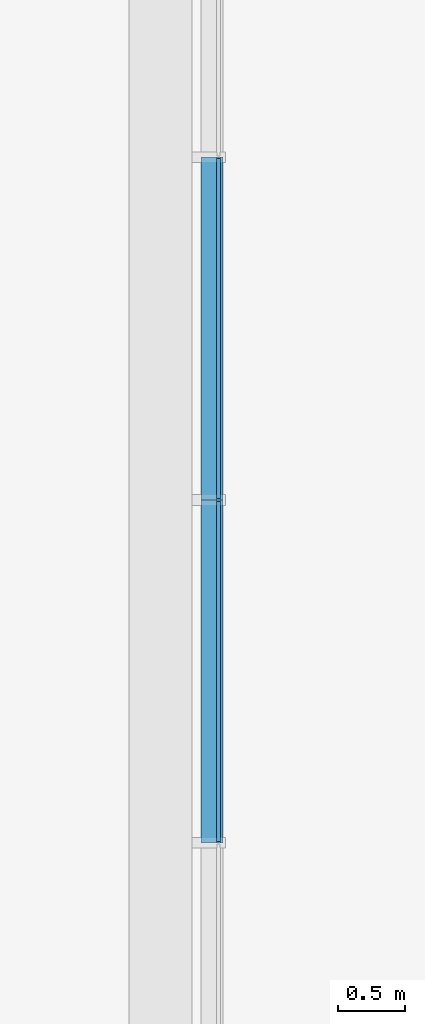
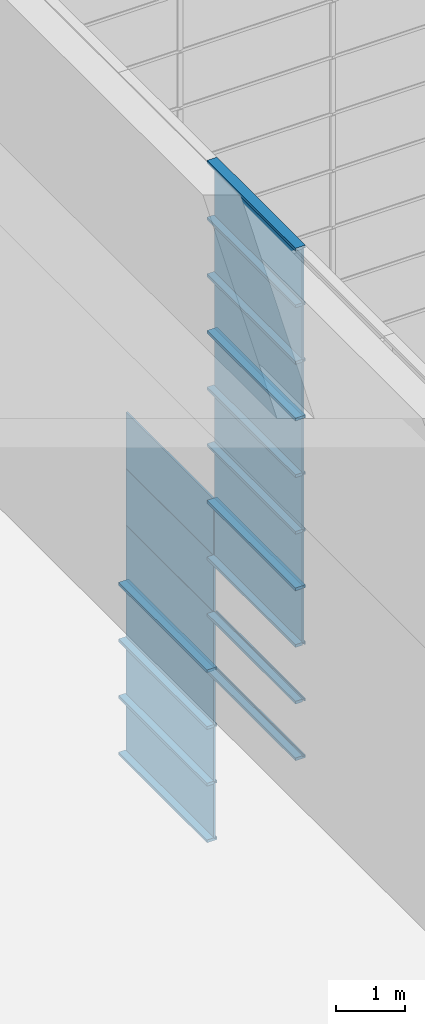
# One storey, part 26 of 105: 30 building element parts, 4 elements without a shape of their own.
"""IFC4 building model written with IfcOpenShell, lengths in millimetres."""

from ifc_helpers import new_model, entity, si_unit, converted_unit, derived_unit, direction, frame, origin_with_axes, place, context, subcontext, project, spatial, triangles, material, element, aggregate, save


model = new_model("IFC4")

# Units and contexts
model_context = context("Model", 3, precision=1e-05, world=origin_with_axes(), true_north=direction((0.0, 1.0)))
body_context = subcontext(model_context, "Body", "Model", "MODEL_VIEW")
ifc_project = project(units=[si_unit("LENGTHUNIT", "METRE", prefix="MILLI"), si_unit("AREAUNIT", "SQUARE_METRE"), si_unit("VOLUMEUNIT", "CUBIC_METRE"), converted_unit("PLANEANGLEUNIT", "DEGREE", entity("IfcLengthMeasure", 0.017453), si_unit("PLANEANGLEUNIT", "RADIAN"), dimensions=[0, 0, 0, 0, 0, 0, 0]), si_unit("SOLIDANGLEUNIT", "STERADIAN"), si_unit("MASSUNIT", "GRAM"), si_unit("TIMEUNIT", "SECOND"), si_unit("THERMODYNAMICTEMPERATUREUNIT", "DEGREE_CELSIUS"), si_unit("LUMINOUSINTENSITYUNIT", "LUMEN"), si_unit("POWERUNIT", "WATT"), derived_unit("THERMALTRANSMITTANCEUNIT", [(si_unit("POWERUNIT", "WATT"), 1), (si_unit("THERMODYNAMICTEMPERATUREUNIT", "KELVIN"), -1), (si_unit("AREAUNIT", "SQUARE_METRE"), -1)])], contexts=[model_context])

# Site, building, storey
site_placement = place(None, origin_with_axes())
site = spatial("IfcSite", under=ifc_project, at=site_placement, Name="Default Site", CompositionType="ELEMENT")
building_placement = place(site_placement, origin_with_axes())
building = spatial("IfcBuilding", under=site, at=building_placement, Name="Default Building", CompositionType="ELEMENT")
storey_placement = place(building_placement, origin_with_axes())
storey = spatial("IfcBuildingStorey", under=building, at=storey_placement, Name="OG - Story", CompositionType="ELEMENT", Elevation=0.0)

# Curtain wall, building element parts
curtain_wall_1_placement = place(storey_placement, origin_with_axes())
curtain_wall_1 = element("IfcCurtainWall", 1, at=curtain_wall_1_placement, inside=storey, Name="Fassade-006", PredefinedType="NOTDEFINED")
ifc_material_1 = material(Name="Normalglas")
building_element_part_1_placement = place(curtain_wall_1_placement, frame((51421.391327, -39309.262838, 0.0), z_axis=(0.0, 0.0, 1.0), x_axis=(1.0, 0.0, 0.0)))
building_element_part_1 = element("IfcBuildingElementPart", 2, at=building_element_part_1_placement, material=ifc_material_1, Name="Normalglas", PredefinedType="NOTDEFINED", context=body_context, shape_type="Tessellation", body=[
    triangles([(-14.999, 8950.0, 995.0), (-14.999, 6410.0, 995.0), (15.0, 6410.0, 995.0), (15.0, 8950.0, 995.0), (-14.999, 8950.0, 5.0), (-14.999, 6410.0, 5.0), (15.0, 6410.0, 5.0), (15.0, 8950.0, 5.0)], [[1, 2, 3], [1, 3, 4], [1, 5, 6], [1, 6, 2], [2, 6, 7], [2, 7, 3], [4, 3, 7], [4, 7, 8], [5, 1, 4], [5, 4, 8], [6, 5, 8], [6, 8, 7]], closed=False),
])
building_element_part_2_placement = place(curtain_wall_1_placement, frame((51421.391327, -39309.262838, 0.0), z_axis=(0.0, 0.0, 1.0), x_axis=(1.0, 0.0, 0.0)))
building_element_part_2 = element("IfcBuildingElementPart", 3, at=building_element_part_2_placement, material=ifc_material_1, Name="Normalglas", PredefinedType="NOTDEFINED", context=body_context, shape_type="Tessellation", body=[
    triangles([(-14.999, 8950.0, 1995.0), (-14.999, 6410.0, 1995.0), (15.0, 6410.0, 1995.0), (15.0, 8950.0, 1995.0), (-14.999, 8950.0, 1005.0), (-14.999, 6410.0, 1005.0), (15.0, 6410.0, 1005.0), (15.0, 8950.0, 1005.0)], [[1, 2, 3], [1, 3, 4], [1, 5, 6], [1, 6, 2], [2, 6, 7], [2, 7, 3], [4, 3, 7], [4, 7, 8], [5, 1, 4], [5, 4, 8], [6, 5, 8], [6, 8, 7]], closed=False),
])
building_element_part_3_placement = place(curtain_wall_1_placement, frame((51421.391327, -39309.262838, 0.0), z_axis=(0.0, 0.0, 1.0), x_axis=(1.0, 0.0, 0.0)))
building_element_part_3 = element("IfcBuildingElementPart", 4, at=building_element_part_3_placement, material=ifc_material_1, Name="Normalglas", PredefinedType="NOTDEFINED", context=body_context, shape_type="Tessellation", body=[
    triangles([(-14.999, 8950.0, 2995.0), (-14.999, 6410.0, 2995.0), (15.0, 6410.0, 2995.0), (15.0, 8950.0, 2995.0), (-14.999, 8950.0, 2005.0), (-14.999, 6410.0, 2005.0), (15.0, 6410.0, 2005.0), (15.0, 8950.0, 2005.0)], [[1, 2, 3], [1, 3, 4], [1, 5, 6], [1, 6, 2], [2, 6, 7], [2, 7, 3], [4, 3, 7], [4, 7, 8], [5, 1, 4], [5, 4, 8], [6, 5, 8], [6, 8, 7]], closed=False),
])
ifc_material_2 = material(Name="Blech")
building_element_part_4_placement = place(curtain_wall_1_placement, frame((51421.391327, -39309.262838, 0.0), z_axis=(0.0, 0.0, 1.0), x_axis=(1.0, 0.0, 0.0)))
building_element_part_4 = element("IfcBuildingElementPart", 5, at=building_element_part_4_placement, material=ifc_material_2, Name="Blech", PredefinedType="NOTDEFINED", context=body_context, shape_type="Tessellation", body=[
    triangles([(15.0, 8960.0, 5.0), (-14.999, 8960.0, 5.0), (-132.999, 8960.0, -24.999), (35.0, 8960.0, -24.999), (35.0, 8960.0, 25.0), (15.0, 8960.0, 25.0), (-132.999, 8960.0, 25.0), (-14.999, 8960.0, 25.0), (-14.999, 6400.0, 5.0), (15.0, 6400.0, 5.0), (15.0, 6400.0, 25.0), (35.0, 6400.0, 25.0), (35.0, 6400.0, -24.999), (-132.999, 6400.0, -24.999), (-132.999, 6400.0, 25.0), (-14.999, 6400.0, 25.0)], [[1, 2, 3], [1, 3, 4], [1, 4, 5], [1, 5, 6], [7, 3, 2], [7, 2, 8], [1, 2, 9], [1, 9, 10], [11, 6, 1], [11, 1, 10], [6, 11, 12], [6, 12, 5], [13, 4, 5], [13, 5, 12], [14, 3, 4], [14, 4, 13], [15, 7, 3], [15, 3, 14], [16, 8, 7], [16, 7, 15], [2, 8, 16], [2, 16, 9], [16, 15, 9], [9, 15, 14], [9, 14, 10], [10, 14, 13], [10, 13, 12], [10, 12, 11]], closed=False),
])
building_element_part_5_placement = place(curtain_wall_1_placement, frame((51421.391327, -39309.262838, 0.0), z_axis=(0.0, 0.0, 1.0), x_axis=(1.0, 0.0, 0.0)))
building_element_part_5 = element("IfcBuildingElementPart", 6, at=building_element_part_5_placement, material=ifc_material_2, Name="Blech", PredefinedType="NOTDEFINED", context=body_context, shape_type="Tessellation", body=[
    triangles([(15.0, 8960.0, 1025.0), (35.0, 8960.0, 1025.0), (15.0, 8960.0, 1005.0), (15.0, 8960.0, 995.0), (-14.999, 8960.0, 1005.0), (-132.999, 8960.0, 1025.0), (-14.999, 8960.0, 1025.0), (35.0, 8960.0, 975.0), (15.0, 8960.0, 975.0), (-14.999, 8960.0, 995.0), (-14.999, 8960.0, 975.0), (-132.999, 8960.0, 975.0), (-14.999, 6400.0, 995.0), (-14.999, 6400.0, 975.0), (-132.999, 6400.0, 975.0), (-132.999, 6400.0, 1025.0), (-14.999, 6400.0, 1025.0), (-14.999, 6400.0, 1005.0), (15.0, 6400.0, 1005.0), (15.0, 6400.0, 1025.0), (35.0, 6400.0, 1025.0), (35.0, 6400.0, 975.0), (15.0, 6400.0, 975.0), (15.0, 6400.0, 995.0)], [[1, 2, 3], [3, 2, 4], [3, 4, 5], [5, 4, 6], [5, 6, 7], [8, 9, 4], [8, 4, 2], [6, 4, 10], [6, 10, 11], [6, 11, 12], [11, 10, 13], [11, 13, 14], [11, 14, 15], [11, 15, 12], [6, 12, 15], [6, 15, 16], [7, 6, 16], [7, 16, 17], [7, 17, 18], [7, 18, 5], [5, 18, 19], [5, 19, 3], [1, 3, 19], [1, 19, 20], [20, 21, 2], [20, 2, 1], [8, 2, 21], [8, 21, 22], [23, 9, 8], [23, 8, 22], [4, 9, 23], [4, 23, 24], [10, 4, 24], [10, 24, 13], [17, 16, 18], [18, 16, 13], [18, 13, 19], [19, 13, 24], [19, 24, 21], [21, 24, 23], [21, 23, 22], [15, 14, 13], [15, 13, 16], [19, 21, 20]], closed=False),
])
building_element_part_6_placement = place(curtain_wall_1_placement, frame((51421.391327, -39309.262838, 0.0), z_axis=(0.0, 0.0, 1.0), x_axis=(1.0, 0.0, 0.0)))
building_element_part_6 = element("IfcBuildingElementPart", 7, at=building_element_part_6_placement, material=ifc_material_2, Name="Blech", PredefinedType="NOTDEFINED", context=body_context, shape_type="Tessellation", body=[
    triangles([(15.0, 8960.0, 2025.0), (35.0, 8960.0, 2025.0), (15.0, 8960.0, 2005.0), (15.0, 8960.0, 1995.0), (-14.999, 8960.0, 2005.0), (-132.999, 8960.0, 2025.0), (-14.999, 8960.0, 2025.0), (35.0, 8960.0, 1975.0), (15.0, 8960.0, 1975.0), (-14.999, 8960.0, 1995.0), (-14.999, 8960.0, 1975.0), (-132.999, 8960.0, 1975.0), (-14.999, 6400.0, 1995.0), (-14.999, 6400.0, 1975.0), (-132.999, 6400.0, 1975.0), (-132.999, 6400.0, 2025.0), (-14.999, 6400.0, 2025.0), (-14.999, 6400.0, 2005.0), (15.0, 6400.0, 2005.0), (15.0, 6400.0, 2025.0), (35.0, 6400.0, 2025.0), (35.0, 6400.0, 1975.0), (15.0, 6400.0, 1975.0), (15.0, 6400.0, 1995.0)], [[1, 2, 3], [3, 2, 4], [3, 4, 5], [5, 4, 6], [5, 6, 7], [8, 9, 4], [8, 4, 2], [6, 4, 10], [6, 10, 11], [6, 11, 12], [11, 10, 13], [11, 13, 14], [11, 14, 15], [11, 15, 12], [6, 12, 15], [6, 15, 16], [7, 6, 16], [7, 16, 17], [7, 17, 18], [7, 18, 5], [5, 18, 19], [5, 19, 3], [1, 3, 19], [1, 19, 20], [20, 21, 2], [20, 2, 1], [8, 2, 21], [8, 21, 22], [23, 9, 8], [23, 8, 22], [4, 9, 23], [4, 23, 24], [10, 4, 24], [10, 24, 13], [17, 16, 18], [18, 16, 13], [18, 13, 19], [19, 13, 24], [19, 24, 21], [21, 24, 23], [21, 23, 22], [15, 14, 13], [15, 13, 16], [19, 21, 20]], closed=False),
])
building_element_part_7_placement = place(curtain_wall_1_placement, frame((51421.391327, -39309.262838, 0.0), z_axis=(0.0, 0.0, 1.0), x_axis=(1.0, 0.0, 0.0)))
building_element_part_7 = element("IfcBuildingElementPart", 8, at=building_element_part_7_placement, material=ifc_material_2, Name="Blech", PredefinedType="NOTDEFINED", context=body_context, shape_type="Tessellation", body=[
    triangles([(15.0, 8960.0, 2995.0), (-14.999, 8960.0, 2995.0), (-132.999, 8960.0, 3025.0), (35.0, 8960.0, 3025.0), (35.0, 8960.0, 2975.0), (15.0, 8960.0, 2975.0), (-14.999, 8960.0, 2975.0), (-132.999, 8960.0, 2975.0), (-14.999, 6400.0, 2995.0), (-14.999, 6400.0, 2975.0), (-132.999, 6400.0, 2975.0), (-132.999, 6400.0, 3025.0), (35.0, 6400.0, 3025.0), (35.0, 6400.0, 2975.0), (15.0, 6400.0, 2975.0), (15.0, 6400.0, 2995.0)], [[1, 2, 3], [1, 3, 4], [1, 4, 5], [1, 5, 6], [7, 8, 3], [7, 3, 2], [2, 9, 10], [2, 10, 7], [10, 11, 8], [10, 8, 7], [11, 12, 3], [11, 3, 8], [12, 13, 4], [12, 4, 3], [13, 14, 5], [13, 5, 4], [6, 5, 14], [6, 14, 15], [15, 16, 1], [15, 1, 6], [1, 16, 9], [1, 9, 2], [16, 9, 12], [16, 12, 13], [16, 13, 14], [16, 14, 15], [10, 11, 12], [10, 12, 9]], closed=False),
])
aggregate(curtain_wall_1, [building_element_part_1, building_element_part_2, building_element_part_3, building_element_part_4, building_element_part_5, building_element_part_6, building_element_part_7])

curtain_wall_2_placement = place(storey_placement, origin_with_axes())
curtain_wall_2 = element("IfcCurtainWall", 9, at=curtain_wall_2_placement, inside=storey, Name="Fassade-006", PredefinedType="NOTDEFINED")
building_element_part_8_placement = place(curtain_wall_2_placement, frame((51421.391327, -39309.262838, 3000.0), z_axis=(0.0, 0.0, 1.0), x_axis=(1.0, 0.0, 0.0)))
building_element_part_8 = element("IfcBuildingElementPart", 10, at=building_element_part_8_placement, material=ifc_material_1, Name="Normalglas", PredefinedType="NOTDEFINED", context=body_context, shape_type="Tessellation", body=[
    triangles([(-14.999, 8950.0, 995.0), (-14.999, 6410.0, 995.0), (15.0, 6410.0, 995.0), (15.0, 8950.0, 995.0), (-14.999, 8950.0, 5.0), (-14.999, 6410.0, 5.0), (15.0, 6410.0, 5.0), (15.0, 8950.0, 5.0)], [[1, 2, 3], [1, 3, 4], [1, 5, 6], [1, 6, 2], [2, 6, 7], [2, 7, 3], [4, 3, 7], [4, 7, 8], [5, 1, 4], [5, 4, 8], [6, 5, 8], [6, 8, 7]], closed=False),
])
building_element_part_9_placement = place(curtain_wall_2_placement, frame((51421.391327, -39309.262838, 3000.0), z_axis=(0.0, 0.0, 1.0), x_axis=(1.0, 0.0, 0.0)))
building_element_part_9 = element("IfcBuildingElementPart", 11, at=building_element_part_9_placement, material=ifc_material_1, Name="Normalglas", PredefinedType="NOTDEFINED", context=body_context, shape_type="Tessellation", body=[
    triangles([(-14.999, 8950.0, 1995.0), (-14.999, 6410.0, 1995.0), (15.0, 6410.0, 1995.0), (15.0, 8950.0, 1995.0), (-14.999, 8950.0, 1005.0), (-14.999, 6410.0, 1005.0), (15.0, 6410.0, 1005.0), (15.0, 8950.0, 1005.0)], [[1, 2, 3], [1, 3, 4], [1, 5, 6], [1, 6, 2], [2, 6, 7], [2, 7, 3], [4, 3, 7], [4, 7, 8], [5, 1, 4], [5, 4, 8], [6, 5, 8], [6, 8, 7]], closed=False),
])
building_element_part_10_placement = place(curtain_wall_2_placement, frame((51421.391327, -39309.262838, 3000.0), z_axis=(0.0, 0.0, 1.0), x_axis=(1.0, 0.0, 0.0)))
building_element_part_10 = element("IfcBuildingElementPart", 12, at=building_element_part_10_placement, material=ifc_material_1, Name="Normalglas", PredefinedType="NOTDEFINED", context=body_context, shape_type="Tessellation", body=[
    triangles([(-14.999, 6390.0, 2995.0), (-14.999, 3850.0, 2995.0), (15.0, 3850.0, 2995.0), (15.0, 6390.0, 2995.0), (-14.999, 6390.0, 2005.0), (-14.999, 3850.0, 2005.0), (15.0, 3850.0, 2005.0), (15.0, 6390.0, 2005.0)], [[1, 2, 3], [1, 3, 4], [1, 5, 6], [1, 6, 2], [2, 6, 7], [2, 7, 3], [4, 3, 7], [4, 7, 8], [5, 1, 4], [5, 4, 8], [6, 5, 8], [6, 8, 7]], closed=False),
])
building_element_part_11_placement = place(curtain_wall_2_placement, frame((51421.391327, -39309.262838, 3000.0), z_axis=(0.0, 0.0, 1.0), x_axis=(1.0, 0.0, 0.0)))
building_element_part_11 = element("IfcBuildingElementPart", 13, at=building_element_part_11_placement, material=ifc_material_1, Name="Normalglas", PredefinedType="NOTDEFINED", context=body_context, shape_type="Tessellation", body=[
    triangles([(-14.999, 8950.0, 2995.0), (-14.999, 6410.0, 2995.0), (15.0, 6410.0, 2995.0), (15.0, 8950.0, 2995.0), (-14.999, 8950.0, 2005.0), (-14.999, 6410.0, 2005.0), (15.0, 6410.0, 2005.0), (15.0, 8950.0, 2005.0)], [[1, 2, 3], [1, 3, 4], [1, 5, 6], [1, 6, 2], [2, 6, 7], [2, 7, 3], [4, 3, 7], [4, 7, 8], [5, 1, 4], [5, 4, 8], [6, 5, 8], [6, 8, 7]], closed=False),
])
building_element_part_12_placement = place(curtain_wall_2_placement, frame((51421.391327, -39309.262838, 3000.0), z_axis=(0.0, 0.0, 1.0), x_axis=(1.0, 0.0, 0.0)))
building_element_part_12 = element("IfcBuildingElementPart", 14, at=building_element_part_12_placement, material=ifc_material_2, Name="Blech", PredefinedType="NOTDEFINED", context=body_context, shape_type="Tessellation", body=[
    triangles([(15.0, 6400.0, 5.0), (-14.999, 6400.0, 5.0), (-132.999, 6400.0, -24.999), (35.0, 6400.0, -24.999), (35.0, 6400.0, 25.0), (15.0, 6400.0, 25.0), (-132.999, 6400.0, 25.0), (-14.999, 6400.0, 25.0), (-14.999, 3840.0, 5.0), (15.0, 3840.0, 5.0), (15.0, 3840.0, 25.0), (35.0, 3840.0, 25.0), (35.0, 3840.0, -24.999), (-132.999, 3840.0, -24.999), (-132.999, 3840.0, 25.0), (-14.999, 3840.0, 25.0)], [[1, 2, 3], [1, 3, 4], [1, 4, 5], [1, 5, 6], [7, 3, 2], [7, 2, 8], [1, 2, 9], [1, 9, 10], [11, 6, 1], [11, 1, 10], [6, 11, 12], [6, 12, 5], [13, 4, 5], [13, 5, 12], [14, 3, 4], [14, 4, 13], [15, 7, 3], [15, 3, 14], [16, 8, 7], [16, 7, 15], [2, 8, 16], [2, 16, 9], [16, 15, 9], [9, 15, 14], [9, 14, 10], [10, 14, 13], [10, 13, 12], [10, 12, 11]], closed=False),
])
building_element_part_13_placement = place(curtain_wall_2_placement, frame((51421.391327, -39309.262838, 3000.0), z_axis=(0.0, 0.0, 1.0), x_axis=(1.0, 0.0, 0.0)))
building_element_part_13 = element("IfcBuildingElementPart", 15, at=building_element_part_13_placement, material=ifc_material_2, Name="Blech", PredefinedType="NOTDEFINED", context=body_context, shape_type="Tessellation", body=[
    triangles([(15.0, 8960.0, 5.0), (-14.999, 8960.0, 5.0), (-132.999, 8960.0, -24.999), (35.0, 8960.0, -24.999), (35.0, 8960.0, 25.0), (15.0, 8960.0, 25.0), (-132.999, 8960.0, 25.0), (-14.999, 8960.0, 25.0), (-14.999, 6400.0, 5.0), (15.0, 6400.0, 5.0), (15.0, 6400.0, 25.0), (35.0, 6400.0, 25.0), (35.0, 6400.0, -24.999), (-132.999, 6400.0, -24.999), (-132.999, 6400.0, 25.0), (-14.999, 6400.0, 25.0)], [[1, 2, 3], [1, 3, 4], [1, 4, 5], [1, 5, 6], [7, 3, 2], [7, 2, 8], [1, 2, 9], [1, 9, 10], [11, 6, 1], [11, 1, 10], [6, 11, 12], [6, 12, 5], [13, 4, 5], [13, 5, 12], [14, 3, 4], [14, 4, 13], [15, 7, 3], [15, 3, 14], [16, 8, 7], [16, 7, 15], [2, 8, 16], [2, 16, 9], [16, 15, 9], [9, 15, 14], [9, 14, 10], [10, 14, 13], [10, 13, 12], [10, 12, 11]], closed=False),
])
building_element_part_14_placement = place(curtain_wall_2_placement, frame((51421.391327, -39309.262838, 3000.0), z_axis=(0.0, 0.0, 1.0), x_axis=(1.0, 0.0, 0.0)))
building_element_part_14 = element("IfcBuildingElementPart", 16, at=building_element_part_14_placement, material=ifc_material_2, Name="Blech", PredefinedType="NOTDEFINED", context=body_context, shape_type="Tessellation", body=[
    triangles([(15.0, 6400.0, 1025.0), (35.0, 6400.0, 1025.0), (15.0, 6400.0, 1005.0), (15.0, 6400.0, 995.0), (-14.999, 6400.0, 1005.0), (-132.999, 6400.0, 1025.0), (-14.999, 6400.0, 1025.0), (35.0, 6400.0, 975.0), (15.0, 6400.0, 975.0), (-14.999, 6400.0, 995.0), (-14.999, 6400.0, 975.0), (-132.999, 6400.0, 975.0), (-14.999, 3840.0, 995.0), (-14.999, 3840.0, 975.0), (-132.999, 3840.0, 975.0), (-132.999, 3840.0, 1025.0), (-14.999, 3840.0, 1025.0), (-14.999, 3840.0, 1005.0), (15.0, 3840.0, 1005.0), (15.0, 3840.0, 1025.0), (35.0, 3840.0, 1025.0), (35.0, 3840.0, 975.0), (15.0, 3840.0, 975.0), (15.0, 3840.0, 995.0)], [[1, 2, 3], [3, 2, 4], [3, 4, 5], [5, 4, 6], [5, 6, 7], [8, 9, 4], [8, 4, 2], [6, 4, 10], [6, 10, 11], [6, 11, 12], [11, 10, 13], [11, 13, 14], [11, 14, 15], [11, 15, 12], [6, 12, 15], [6, 15, 16], [7, 6, 16], [7, 16, 17], [7, 17, 18], [7, 18, 5], [5, 18, 19], [5, 19, 3], [1, 3, 19], [1, 19, 20], [20, 21, 2], [20, 2, 1], [8, 2, 21], [8, 21, 22], [23, 9, 8], [23, 8, 22], [4, 9, 23], [4, 23, 24], [10, 4, 24], [10, 24, 13], [17, 16, 18], [18, 16, 13], [18, 13, 19], [19, 13, 24], [19, 24, 21], [21, 24, 23], [21, 23, 22], [15, 14, 13], [15, 13, 16], [19, 21, 20]], closed=False),
])
building_element_part_15_placement = place(curtain_wall_2_placement, frame((51421.391327, -39309.262838, 3000.0), z_axis=(0.0, 0.0, 1.0), x_axis=(1.0, 0.0, 0.0)))
building_element_part_15 = element("IfcBuildingElementPart", 17, at=building_element_part_15_placement, material=ifc_material_2, Name="Blech", PredefinedType="NOTDEFINED", context=body_context, shape_type="Tessellation", body=[
    triangles([(15.0, 6400.0, 2025.0), (35.0, 6400.0, 2025.0), (15.0, 6400.0, 2005.0), (15.0, 6400.0, 1995.0), (-14.999, 6400.0, 2005.0), (-132.999, 6400.0, 2025.0), (-14.999, 6400.0, 2025.0), (35.0, 6400.0, 1975.0), (15.0, 6400.0, 1975.0), (-14.999, 6400.0, 1995.0), (-14.999, 6400.0, 1975.0), (-132.999, 6400.0, 1975.0), (-14.999, 3840.0, 1995.0), (-14.999, 3840.0, 1975.0), (-132.999, 3840.0, 1975.0), (-132.999, 3840.0, 2025.0), (-14.999, 3840.0, 2025.0), (-14.999, 3840.0, 2005.0), (15.0, 3840.0, 2005.0), (15.0, 3840.0, 2025.0), (35.0, 3840.0, 2025.0), (35.0, 3840.0, 1975.0), (15.0, 3840.0, 1975.0), (15.0, 3840.0, 1995.0)], [[1, 2, 3], [3, 2, 4], [3, 4, 5], [5, 4, 6], [5, 6, 7], [8, 9, 4], [8, 4, 2], [6, 4, 10], [6, 10, 11], [6, 11, 12], [11, 10, 13], [11, 13, 14], [11, 14, 15], [11, 15, 12], [6, 12, 15], [6, 15, 16], [7, 6, 16], [7, 16, 17], [7, 17, 18], [7, 18, 5], [5, 18, 19], [5, 19, 3], [1, 3, 19], [1, 19, 20], [20, 21, 2], [20, 2, 1], [8, 2, 21], [8, 21, 22], [23, 9, 8], [23, 8, 22], [4, 9, 23], [4, 23, 24], [10, 4, 24], [10, 24, 13], [17, 16, 18], [18, 16, 13], [18, 13, 19], [19, 13, 24], [19, 24, 21], [21, 24, 23], [21, 23, 22], [15, 14, 13], [15, 13, 16], [19, 21, 20]], closed=False),
])
building_element_part_16_placement = place(curtain_wall_2_placement, frame((51421.391327, -39309.262838, 3000.0), z_axis=(0.0, 0.0, 1.0), x_axis=(1.0, 0.0, 0.0)))
building_element_part_16 = element("IfcBuildingElementPart", 18, at=building_element_part_16_placement, material=ifc_material_2, Name="Blech", PredefinedType="NOTDEFINED", context=body_context, shape_type="Tessellation", body=[
    triangles([(15.0, 6400.0, 2995.0), (-14.999, 6400.0, 2995.0), (-132.999, 6400.0, 3025.0), (35.0, 6400.0, 3025.0), (35.0, 6400.0, 2975.0), (15.0, 6400.0, 2975.0), (-14.999, 6400.0, 2975.0), (-132.999, 6400.0, 2975.0), (-14.999, 3840.0, 2995.0), (-14.999, 3840.0, 2975.0), (-132.999, 3840.0, 2975.0), (-132.999, 3840.0, 3025.0), (35.0, 3840.0, 3025.0), (35.0, 3840.0, 2975.0), (15.0, 3840.0, 2975.0), (15.0, 3840.0, 2995.0)], [[1, 2, 3], [1, 3, 4], [1, 4, 5], [1, 5, 6], [7, 8, 3], [7, 3, 2], [2, 9, 10], [2, 10, 7], [10, 11, 8], [10, 8, 7], [11, 12, 3], [11, 3, 8], [12, 13, 4], [12, 4, 3], [13, 14, 5], [13, 5, 4], [6, 5, 14], [6, 14, 15], [15, 16, 1], [15, 1, 6], [1, 16, 9], [1, 9, 2], [16, 9, 12], [16, 12, 13], [16, 13, 14], [16, 14, 15], [10, 11, 12], [10, 12, 9]], closed=False),
])
aggregate(curtain_wall_2, [building_element_part_8, building_element_part_9, building_element_part_10, building_element_part_11, building_element_part_12, building_element_part_13, building_element_part_14, building_element_part_15, building_element_part_16])

curtain_wall_3_placement = place(storey_placement, origin_with_axes())
curtain_wall_3 = element("IfcCurtainWall", 19, at=curtain_wall_3_placement, inside=storey, Name="Fassade-006", PredefinedType="NOTDEFINED")
building_element_part_17_placement = place(curtain_wall_3_placement, frame((51421.391327, -39309.262838, 6000.0), z_axis=(0.0, 0.0, 1.0), x_axis=(1.0, 0.0, 0.0)))
building_element_part_17 = element("IfcBuildingElementPart", 20, at=building_element_part_17_placement, material=ifc_material_1, Name="Normalglas", PredefinedType="NOTDEFINED", context=body_context, shape_type="Tessellation", body=[
    triangles([(-14.999, 6390.0, 995.0), (-14.999, 3850.0, 995.0), (15.0, 3850.0, 995.0), (15.0, 6390.0, 995.0), (-14.999, 6390.0, 5.0), (-14.999, 3850.0, 5.0), (15.0, 3850.0, 5.0), (15.0, 6390.0, 5.0)], [[1, 2, 3], [1, 3, 4], [1, 5, 6], [1, 6, 2], [2, 6, 7], [2, 7, 3], [4, 3, 7], [4, 7, 8], [5, 1, 4], [5, 4, 8], [6, 5, 8], [6, 8, 7]], closed=False),
])
building_element_part_18_placement = place(curtain_wall_3_placement, frame((51421.391327, -39309.262838, 6000.0), z_axis=(0.0, 0.0, 1.0), x_axis=(1.0, 0.0, 0.0)))
building_element_part_18 = element("IfcBuildingElementPart", 21, at=building_element_part_18_placement, material=ifc_material_1, Name="Normalglas", PredefinedType="NOTDEFINED", context=body_context, shape_type="Tessellation", body=[
    triangles([(-14.999, 6390.0, 1995.0), (-14.999, 3850.0, 1995.0), (15.0, 3850.0, 1995.0), (15.0, 6390.0, 1995.0), (-14.999, 6390.0, 1005.0), (-14.999, 3850.0, 1005.0), (15.0, 3850.0, 1005.0), (15.0, 6390.0, 1005.0)], [[1, 2, 3], [1, 3, 4], [1, 5, 6], [1, 6, 2], [2, 6, 7], [2, 7, 3], [4, 3, 7], [4, 7, 8], [5, 1, 4], [5, 4, 8], [6, 5, 8], [6, 8, 7]], closed=False),
])
building_element_part_19_placement = place(curtain_wall_3_placement, frame((51421.391327, -39309.262838, 6000.0), z_axis=(0.0, 0.0, 1.0), x_axis=(1.0, 0.0, 0.0)))
building_element_part_19 = element("IfcBuildingElementPart", 22, at=building_element_part_19_placement, material=ifc_material_1, Name="Normalglas", PredefinedType="NOTDEFINED", context=body_context, shape_type="Tessellation", body=[
    triangles([(-14.999, 6390.0, 2995.0), (-14.999, 3850.0, 2995.0), (15.0, 3850.0, 2995.0), (15.0, 6390.0, 2995.0), (-14.999, 6390.0, 2005.0), (-14.999, 3850.0, 2005.0), (15.0, 3850.0, 2005.0), (15.0, 6390.0, 2005.0)], [[1, 2, 3], [1, 3, 4], [1, 5, 6], [1, 6, 2], [2, 6, 7], [2, 7, 3], [4, 3, 7], [4, 7, 8], [5, 1, 4], [5, 4, 8], [6, 5, 8], [6, 8, 7]], closed=False),
])
building_element_part_20_placement = place(curtain_wall_3_placement, frame((51421.391327, -39309.262838, 6000.0), z_axis=(0.0, 0.0, 1.0), x_axis=(1.0, 0.0, 0.0)))
building_element_part_20 = element("IfcBuildingElementPart", 23, at=building_element_part_20_placement, material=ifc_material_2, Name="Blech", PredefinedType="NOTDEFINED", context=body_context, shape_type="Tessellation", body=[
    triangles([(15.0, 6400.0, 5.0), (-14.999, 6400.0, 5.0), (-132.999, 6400.0, -24.999), (35.0, 6400.0, -24.999), (35.0, 6400.0, 25.0), (15.0, 6400.0, 25.0), (-132.999, 6400.0, 25.0), (-14.999, 6400.0, 25.0), (-14.999, 3840.0, 5.0), (15.0, 3840.0, 5.0), (15.0, 3840.0, 25.0), (35.0, 3840.0, 25.0), (35.0, 3840.0, -24.999), (-132.999, 3840.0, -24.999), (-132.999, 3840.0, 25.0), (-14.999, 3840.0, 25.0)], [[1, 2, 3], [1, 3, 4], [1, 4, 5], [1, 5, 6], [7, 3, 2], [7, 2, 8], [1, 2, 9], [1, 9, 10], [11, 6, 1], [11, 1, 10], [6, 11, 12], [6, 12, 5], [13, 4, 5], [13, 5, 12], [14, 3, 4], [14, 4, 13], [15, 7, 3], [15, 3, 14], [16, 8, 7], [16, 7, 15], [2, 8, 16], [2, 16, 9], [16, 15, 9], [9, 15, 14], [9, 14, 10], [10, 14, 13], [10, 13, 12], [10, 12, 11]], closed=False),
])
building_element_part_21_placement = place(curtain_wall_3_placement, frame((51421.391327, -39309.262838, 6000.0), z_axis=(0.0, 0.0, 1.0), x_axis=(1.0, 0.0, 0.0)))
building_element_part_21 = element("IfcBuildingElementPart", 24, at=building_element_part_21_placement, material=ifc_material_2, Name="Blech", PredefinedType="NOTDEFINED", context=body_context, shape_type="Tessellation", body=[
    triangles([(15.0, 6400.0, 1025.0), (35.0, 6400.0, 1025.0), (15.0, 6400.0, 1005.0), (15.0, 6400.0, 995.0), (-14.999, 6400.0, 1005.0), (-132.999, 6400.0, 1025.0), (-14.999, 6400.0, 1025.0), (35.0, 6400.0, 975.0), (15.0, 6400.0, 975.0), (-14.999, 6400.0, 995.0), (-14.999, 6400.0, 975.0), (-132.999, 6400.0, 975.0), (-14.999, 3840.0, 995.0), (-14.999, 3840.0, 975.0), (-132.999, 3840.0, 975.0), (-132.999, 3840.0, 1025.0), (-14.999, 3840.0, 1025.0), (-14.999, 3840.0, 1005.0), (15.0, 3840.0, 1005.0), (15.0, 3840.0, 1025.0), (35.0, 3840.0, 1025.0), (35.0, 3840.0, 975.0), (15.0, 3840.0, 975.0), (15.0, 3840.0, 995.0)], [[1, 2, 3], [3, 2, 4], [3, 4, 5], [5, 4, 6], [5, 6, 7], [8, 9, 4], [8, 4, 2], [6, 4, 10], [6, 10, 11], [6, 11, 12], [11, 10, 13], [11, 13, 14], [11, 14, 15], [11, 15, 12], [6, 12, 15], [6, 15, 16], [7, 6, 16], [7, 16, 17], [7, 17, 18], [7, 18, 5], [5, 18, 19], [5, 19, 3], [1, 3, 19], [1, 19, 20], [20, 21, 2], [20, 2, 1], [8, 2, 21], [8, 21, 22], [23, 9, 8], [23, 8, 22], [4, 9, 23], [4, 23, 24], [10, 4, 24], [10, 24, 13], [17, 16, 18], [18, 16, 13], [18, 13, 19], [19, 13, 24], [19, 24, 21], [21, 24, 23], [21, 23, 22], [15, 14, 13], [15, 13, 16], [19, 21, 20]], closed=False),
])
building_element_part_22_placement = place(curtain_wall_3_placement, frame((51421.391327, -39309.262838, 6000.0), z_axis=(0.0, 0.0, 1.0), x_axis=(1.0, 0.0, 0.0)))
building_element_part_22 = element("IfcBuildingElementPart", 25, at=building_element_part_22_placement, material=ifc_material_2, Name="Blech", PredefinedType="NOTDEFINED", context=body_context, shape_type="Tessellation", body=[
    triangles([(15.0, 6400.0, 2025.0), (35.0, 6400.0, 2025.0), (15.0, 6400.0, 2005.0), (15.0, 6400.0, 1995.0), (-14.999, 6400.0, 2005.0), (-132.999, 6400.0, 2025.0), (-14.999, 6400.0, 2025.0), (35.0, 6400.0, 1975.0), (15.0, 6400.0, 1975.0), (-14.999, 6400.0, 1995.0), (-14.999, 6400.0, 1975.0), (-132.999, 6400.0, 1975.0), (-14.999, 3840.0, 1995.0), (-14.999, 3840.0, 1975.0), (-132.999, 3840.0, 1975.0), (-132.999, 3840.0, 2025.0), (-14.999, 3840.0, 2025.0), (-14.999, 3840.0, 2005.0), (15.0, 3840.0, 2005.0), (15.0, 3840.0, 2025.0), (35.0, 3840.0, 2025.0), (35.0, 3840.0, 1975.0), (15.0, 3840.0, 1975.0), (15.0, 3840.0, 1995.0)], [[1, 2, 3], [3, 2, 4], [3, 4, 5], [5, 4, 6], [5, 6, 7], [8, 9, 4], [8, 4, 2], [6, 4, 10], [6, 10, 11], [6, 11, 12], [11, 10, 13], [11, 13, 14], [11, 14, 15], [11, 15, 12], [6, 12, 15], [6, 15, 16], [7, 6, 16], [7, 16, 17], [7, 17, 18], [7, 18, 5], [5, 18, 19], [5, 19, 3], [1, 3, 19], [1, 19, 20], [20, 21, 2], [20, 2, 1], [8, 2, 21], [8, 21, 22], [23, 9, 8], [23, 8, 22], [4, 9, 23], [4, 23, 24], [10, 4, 24], [10, 24, 13], [17, 16, 18], [18, 16, 13], [18, 13, 19], [19, 13, 24], [19, 24, 21], [21, 24, 23], [21, 23, 22], [15, 14, 13], [15, 13, 16], [19, 21, 20]], closed=False),
])
building_element_part_23_placement = place(curtain_wall_3_placement, frame((51421.391327, -39309.262838, 6000.0), z_axis=(0.0, 0.0, 1.0), x_axis=(1.0, 0.0, 0.0)))
building_element_part_23 = element("IfcBuildingElementPart", 26, at=building_element_part_23_placement, material=ifc_material_2, Name="Blech", PredefinedType="NOTDEFINED", context=body_context, shape_type="Tessellation", body=[
    triangles([(15.0, 6400.0, 2995.0), (-14.999, 6400.0, 2995.0), (-132.999, 6400.0, 3025.0), (35.0, 6400.0, 3025.0), (35.0, 6400.0, 2975.0), (15.0, 6400.0, 2975.0), (-14.999, 6400.0, 2975.0), (-132.999, 6400.0, 2975.0), (-14.999, 3840.0, 2995.0), (-14.999, 3840.0, 2975.0), (-132.999, 3840.0, 2975.0), (-132.999, 3840.0, 3025.0), (35.0, 3840.0, 3025.0), (35.0, 3840.0, 2975.0), (15.0, 3840.0, 2975.0), (15.0, 3840.0, 2995.0)], [[1, 2, 3], [1, 3, 4], [1, 4, 5], [1, 5, 6], [7, 8, 3], [7, 3, 2], [2, 9, 10], [2, 10, 7], [10, 11, 8], [10, 8, 7], [11, 12, 3], [11, 3, 8], [12, 13, 4], [12, 4, 3], [13, 14, 5], [13, 5, 4], [6, 5, 14], [6, 14, 15], [15, 16, 1], [15, 1, 6], [1, 16, 9], [1, 9, 2], [16, 9, 12], [16, 12, 13], [16, 13, 14], [16, 14, 15], [10, 11, 12], [10, 12, 9]], closed=False),
])
aggregate(curtain_wall_3, [building_element_part_17, building_element_part_18, building_element_part_19, building_element_part_20, building_element_part_21, building_element_part_22, building_element_part_23])

curtain_wall_4_placement = place(storey_placement, origin_with_axes())
curtain_wall_4 = element("IfcCurtainWall", 27, at=curtain_wall_4_placement, inside=storey, Name="Fassade-006", PredefinedType="NOTDEFINED")
building_element_part_24_placement = place(curtain_wall_4_placement, frame((51421.391327, -39309.262838, 9000.0), z_axis=(0.0, 0.0, 1.0), x_axis=(1.0, 0.0, 0.0)))
building_element_part_24 = element("IfcBuildingElementPart", 28, at=building_element_part_24_placement, material=ifc_material_1, Name="Normalglas", PredefinedType="NOTDEFINED", context=body_context, shape_type="Tessellation", body=[
    triangles([(-14.999, 6390.0, 995.0), (-14.999, 3850.0, 995.0), (15.0, 3850.0, 995.0), (15.0, 6390.0, 995.0), (-14.999, 6390.0, 5.0), (-14.999, 3850.0, 5.0), (15.0, 3850.0, 5.0), (15.0, 6390.0, 5.0)], [[1, 2, 3], [1, 3, 4], [1, 5, 6], [1, 6, 2], [2, 6, 7], [2, 7, 3], [4, 3, 7], [4, 7, 8], [5, 1, 4], [5, 4, 8], [6, 5, 8], [6, 8, 7]], closed=False),
])
building_element_part_25_placement = place(curtain_wall_4_placement, frame((51421.391327, -39309.262838, 9000.0), z_axis=(0.0, 0.0, 1.0), x_axis=(1.0, 0.0, 0.0)))
building_element_part_25 = element("IfcBuildingElementPart", 29, at=building_element_part_25_placement, material=ifc_material_1, Name="Normalglas", PredefinedType="NOTDEFINED", context=body_context, shape_type="Tessellation", body=[
    triangles([(-14.999, 6390.0, 1995.0), (-14.999, 3850.0, 1995.0), (15.0, 3850.0, 1995.0), (15.0, 6390.0, 1995.0), (-14.999, 6390.0, 1005.0), (-14.999, 3850.0, 1005.0), (15.0, 3850.0, 1005.0), (15.0, 6390.0, 1005.0)], [[1, 2, 3], [1, 3, 4], [1, 5, 6], [1, 6, 2], [2, 6, 7], [2, 7, 3], [4, 3, 7], [4, 7, 8], [5, 1, 4], [5, 4, 8], [6, 5, 8], [6, 8, 7]], closed=False),
])
building_element_part_26_placement = place(curtain_wall_4_placement, frame((51421.391327, -39309.262838, 9000.0), z_axis=(0.0, 0.0, 1.0), x_axis=(1.0, 0.0, 0.0)))
building_element_part_26 = element("IfcBuildingElementPart", 30, at=building_element_part_26_placement, material=ifc_material_1, Name="Normalglas", PredefinedType="NOTDEFINED", context=body_context, shape_type="Tessellation", body=[
    triangles([(-14.999, 6390.0, 2995.0), (-14.999, 3850.0, 2995.0), (15.0, 3850.0, 2995.0), (15.0, 6390.0, 2995.0), (-14.999, 6390.0, 2005.0), (-14.999, 3850.0, 2005.0), (15.0, 3850.0, 2005.0), (15.0, 6390.0, 2005.0)], [[1, 2, 3], [1, 3, 4], [1, 5, 6], [1, 6, 2], [2, 6, 7], [2, 7, 3], [4, 3, 7], [4, 7, 8], [5, 1, 4], [5, 4, 8], [6, 5, 8], [6, 8, 7]], closed=False),
])
building_element_part_27_placement = place(curtain_wall_4_placement, frame((51421.391327, -39309.262838, 9000.0), z_axis=(0.0, 0.0, 1.0), x_axis=(1.0, 0.0, 0.0)))
building_element_part_27 = element("IfcBuildingElementPart", 31, at=building_element_part_27_placement, material=ifc_material_2, Name="Blech", PredefinedType="NOTDEFINED", context=body_context, shape_type="Tessellation", body=[
    triangles([(15.0, 6400.0, 5.0), (-14.999, 6400.0, 5.0), (-132.999, 6400.0, -24.999), (35.0, 6400.0, -24.999), (35.0, 6400.0, 25.0), (15.0, 6400.0, 25.0), (-132.999, 6400.0, 25.0), (-14.999, 6400.0, 25.0), (-14.999, 3840.0, 5.0), (15.0, 3840.0, 5.0), (15.0, 3840.0, 25.0), (35.0, 3840.0, 25.0), (35.0, 3840.0, -24.999), (-132.999, 3840.0, -24.999), (-132.999, 3840.0, 25.0), (-14.999, 3840.0, 25.0)], [[1, 2, 3], [1, 3, 4], [1, 4, 5], [1, 5, 6], [7, 3, 2], [7, 2, 8], [1, 2, 9], [1, 9, 10], [11, 6, 1], [11, 1, 10], [6, 11, 12], [6, 12, 5], [13, 4, 5], [13, 5, 12], [14, 3, 4], [14, 4, 13], [15, 7, 3], [15, 3, 14], [16, 8, 7], [16, 7, 15], [2, 8, 16], [2, 16, 9], [16, 15, 9], [9, 15, 14], [9, 14, 10], [10, 14, 13], [10, 13, 12], [10, 12, 11]], closed=False),
])
building_element_part_28_placement = place(curtain_wall_4_placement, frame((51421.391327, -39309.262838, 9000.0), z_axis=(0.0, 0.0, 1.0), x_axis=(1.0, 0.0, 0.0)))
building_element_part_28 = element("IfcBuildingElementPart", 32, at=building_element_part_28_placement, material=ifc_material_2, Name="Blech", PredefinedType="NOTDEFINED", context=body_context, shape_type="Tessellation", body=[
    triangles([(15.0, 6400.0, 1025.0), (35.0, 6400.0, 1025.0), (15.0, 6400.0, 1005.0), (15.0, 6400.0, 995.0), (-14.999, 6400.0, 1005.0), (-132.999, 6400.0, 1025.0), (-14.999, 6400.0, 1025.0), (35.0, 6400.0, 975.0), (15.0, 6400.0, 975.0), (-14.999, 6400.0, 995.0), (-14.999, 6400.0, 975.0), (-132.999, 6400.0, 975.0), (-14.999, 3840.0, 995.0), (-14.999, 3840.0, 975.0), (-132.999, 3840.0, 975.0), (-132.999, 3840.0, 1025.0), (-14.999, 3840.0, 1025.0), (-14.999, 3840.0, 1005.0), (15.0, 3840.0, 1005.0), (15.0, 3840.0, 1025.0), (35.0, 3840.0, 1025.0), (35.0, 3840.0, 975.0), (15.0, 3840.0, 975.0), (15.0, 3840.0, 995.0)], [[1, 2, 3], [3, 2, 4], [3, 4, 5], [5, 4, 6], [5, 6, 7], [8, 9, 4], [8, 4, 2], [6, 4, 10], [6, 10, 11], [6, 11, 12], [11, 10, 13], [11, 13, 14], [11, 14, 15], [11, 15, 12], [6, 12, 15], [6, 15, 16], [7, 6, 16], [7, 16, 17], [7, 17, 18], [7, 18, 5], [5, 18, 19], [5, 19, 3], [1, 3, 19], [1, 19, 20], [20, 21, 2], [20, 2, 1], [8, 2, 21], [8, 21, 22], [23, 9, 8], [23, 8, 22], [4, 9, 23], [4, 23, 24], [10, 4, 24], [10, 24, 13], [17, 16, 18], [18, 16, 13], [18, 13, 19], [19, 13, 24], [19, 24, 21], [21, 24, 23], [21, 23, 22], [15, 14, 13], [15, 13, 16], [19, 21, 20]], closed=False),
])
building_element_part_29_placement = place(curtain_wall_4_placement, frame((51421.391327, -39309.262838, 9000.0), z_axis=(0.0, 0.0, 1.0), x_axis=(1.0, 0.0, 0.0)))
building_element_part_29 = element("IfcBuildingElementPart", 33, at=building_element_part_29_placement, material=ifc_material_2, Name="Blech", PredefinedType="NOTDEFINED", context=body_context, shape_type="Tessellation", body=[
    triangles([(15.0, 6400.0, 2025.0), (35.0, 6400.0, 2025.0), (15.0, 6400.0, 2005.0), (15.0, 6400.0, 1995.0), (-14.999, 6400.0, 2005.0), (-132.999, 6400.0, 2025.0), (-14.999, 6400.0, 2025.0), (35.0, 6400.0, 1975.0), (15.0, 6400.0, 1975.0), (-14.999, 6400.0, 1995.0), (-14.999, 6400.0, 1975.0), (-132.999, 6400.0, 1975.0), (-14.999, 3840.0, 1995.0), (-14.999, 3840.0, 1975.0), (-132.999, 3840.0, 1975.0), (-132.999, 3840.0, 2025.0), (-14.999, 3840.0, 2025.0), (-14.999, 3840.0, 2005.0), (15.0, 3840.0, 2005.0), (15.0, 3840.0, 2025.0), (35.0, 3840.0, 2025.0), (35.0, 3840.0, 1975.0), (15.0, 3840.0, 1975.0), (15.0, 3840.0, 1995.0)], [[1, 2, 3], [3, 2, 4], [3, 4, 5], [5, 4, 6], [5, 6, 7], [8, 9, 4], [8, 4, 2], [6, 4, 10], [6, 10, 11], [6, 11, 12], [11, 10, 13], [11, 13, 14], [11, 14, 15], [11, 15, 12], [6, 12, 15], [6, 15, 16], [7, 6, 16], [7, 16, 17], [7, 17, 18], [7, 18, 5], [5, 18, 19], [5, 19, 3], [1, 3, 19], [1, 19, 20], [20, 21, 2], [20, 2, 1], [8, 2, 21], [8, 21, 22], [23, 9, 8], [23, 8, 22], [4, 9, 23], [4, 23, 24], [10, 4, 24], [10, 24, 13], [17, 16, 18], [18, 16, 13], [18, 13, 19], [19, 13, 24], [19, 24, 21], [21, 24, 23], [21, 23, 22], [15, 14, 13], [15, 13, 16], [19, 21, 20]], closed=False),
])
building_element_part_30_placement = place(curtain_wall_4_placement, frame((51421.391327, -39309.262838, 9000.0), z_axis=(0.0, 0.0, 1.0), x_axis=(1.0, 0.0, 0.0)))
building_element_part_30 = element("IfcBuildingElementPart", 34, at=building_element_part_30_placement, material=ifc_material_2, Name="Blech", PredefinedType="NOTDEFINED", context=body_context, shape_type="Tessellation", body=[
    triangles([(15.0, 6400.0, 2995.0), (-14.999, 6400.0, 2995.0), (-132.999, 6400.0, 3025.0), (35.0, 6400.0, 3025.0), (35.0, 6400.0, 2975.0), (15.0, 6400.0, 2975.0), (-14.999, 6400.0, 2975.0), (-132.999, 6400.0, 2975.0), (-14.999, 3840.0, 2995.0), (-14.999, 3840.0, 2975.0), (-132.999, 3840.0, 2975.0), (-132.999, 3840.0, 3025.0), (35.0, 3840.0, 3025.0), (35.0, 3840.0, 2975.0), (15.0, 3840.0, 2975.0), (15.0, 3840.0, 2995.0)], [[1, 2, 3], [1, 3, 4], [1, 4, 5], [1, 5, 6], [7, 8, 3], [7, 3, 2], [2, 9, 10], [2, 10, 7], [10, 11, 8], [10, 8, 7], [11, 12, 3], [11, 3, 8], [12, 13, 4], [12, 4, 3], [13, 14, 5], [13, 5, 4], [6, 5, 14], [6, 14, 15], [15, 16, 1], [15, 1, 6], [1, 16, 9], [1, 9, 2], [16, 9, 12], [16, 12, 13], [16, 13, 14], [16, 14, 15], [10, 11, 12], [10, 12, 9]], closed=False),
])
aggregate(curtain_wall_4, [building_element_part_24, building_element_part_25, building_element_part_26, building_element_part_27, building_element_part_28, building_element_part_29, building_element_part_30])

save(model, "model.ifc")
